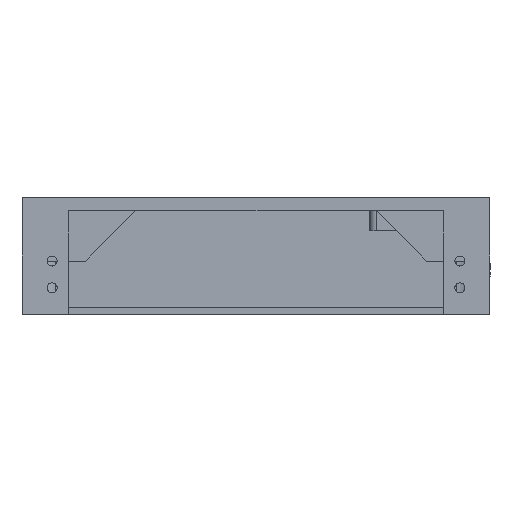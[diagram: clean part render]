
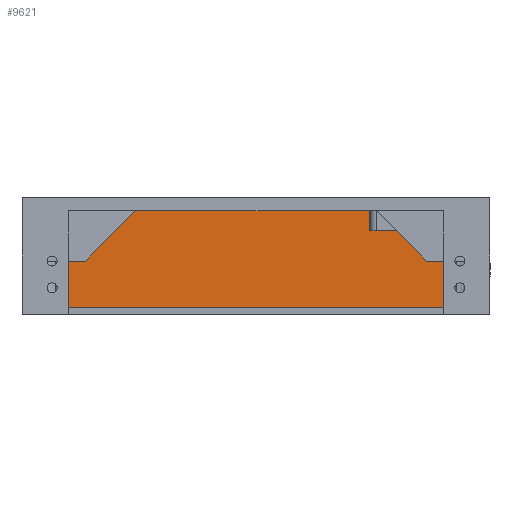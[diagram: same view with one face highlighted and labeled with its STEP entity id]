
A CAD part, left-side view. The second image highlights one B-rep face of the part: STEP entity #9621.
In plain terms, the highlighted planar face has unit normal (-1, 0, 0).
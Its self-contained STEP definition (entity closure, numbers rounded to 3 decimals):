
#324 = EDGE_CURVE ( 'NONE', #7826, #15029, #10431, .T. ) ;
#899 = LINE ( 'NONE', #1987, #4059 ) ;
#1340 = CARTESIAN_POINT ( 'NONE',  ( 116., -60., 35. ) ) ;
#1987 = CARTESIAN_POINT ( 'NONE',  ( 116., 60., 35. ) ) ;
#2610 = LINE ( 'NONE', #14852, #9344 ) ;
#2932 = EDGE_CURVE ( 'NONE', #7826, #11359, #2610, .T. ) ;
#3544 = CARTESIAN_POINT ( 'NONE',  ( 116., -60., 31. ) ) ;
#3874 = DIRECTION ( 'NONE',  ( 0., 0., 1. ) ) ;
#4059 = VECTOR ( 'NONE', #9814, 1000. ) ;
#4280 = AXIS2_PLACEMENT_3D ( 'NONE', #1340, #15367, #3874 ) ;
#5062 = DIRECTION ( 'NONE',  ( 0., 1., 0. ) ) ;
#5475 = ORIENTED_EDGE ( 'NONE', *, *, #2932, .F. ) ;
#5851 = EDGE_CURVE ( 'NONE', #14286, #11359, #10403, .T. ) ;
#5988 = DIRECTION ( 'NONE',  ( 0., 0., -1. ) ) ;
#6206 = VECTOR ( 'NONE', #7997, 1000. ) ;
#7366 = ORIENTED_EDGE ( 'NONE', *, *, #8821, .T. ) ;
#7826 = VERTEX_POINT ( 'NONE', #3544 ) ;
#7997 = DIRECTION ( 'NONE',  ( 0., -1., 0. ) ) ;
#8067 = FACE_OUTER_BOUND ( 'NONE', #12082, .T. ) ;
#8821 = EDGE_CURVE ( 'NONE', #15029, #14286, #899, .T. ) ;
#9344 = VECTOR ( 'NONE', #5988, 1000. ) ;
#9621 = ADVANCED_FACE ( 'NONE', ( #8067 ), #12750, .T. ) ;
#9814 = DIRECTION ( 'NONE',  ( 0., 0., -1. ) ) ;
#10403 = LINE ( 'NONE', #15649, #6206 ) ;
#10431 = LINE ( 'NONE', #13823, #10806 ) ;
#10640 = ORIENTED_EDGE ( 'NONE', *, *, #324, .T. ) ;
#10806 = VECTOR ( 'NONE', #5062, 1000. ) ;
#11359 = VERTEX_POINT ( 'NONE', #14394 ) ;
#12082 = EDGE_LOOP ( 'NONE', ( #12938, #5475, #10640, #7366 ) ) ;
#12750 = PLANE ( 'NONE',  #4280 ) ;
#12938 = ORIENTED_EDGE ( 'NONE', *, *, #5851, .T. ) ;
#13823 = CARTESIAN_POINT ( 'NONE',  ( 116., -60., 31. ) ) ;
#14286 = VERTEX_POINT ( 'NONE', #15534 ) ;
#14394 = CARTESIAN_POINT ( 'NONE',  ( 116., -60., 2.032 ) ) ;
#14852 = CARTESIAN_POINT ( 'NONE',  ( 116., -60., 35. ) ) ;
#15018 = CARTESIAN_POINT ( 'NONE',  ( 116., 60., 31. ) ) ;
#15029 = VERTEX_POINT ( 'NONE', #15018 ) ;
#15367 = DIRECTION ( 'NONE',  ( -1., 0., 0. ) ) ;
#15534 = CARTESIAN_POINT ( 'NONE',  ( 116., 60., 2.032 ) ) ;
#15649 = CARTESIAN_POINT ( 'NONE',  ( 116., -60., 2.032 ) ) ;
